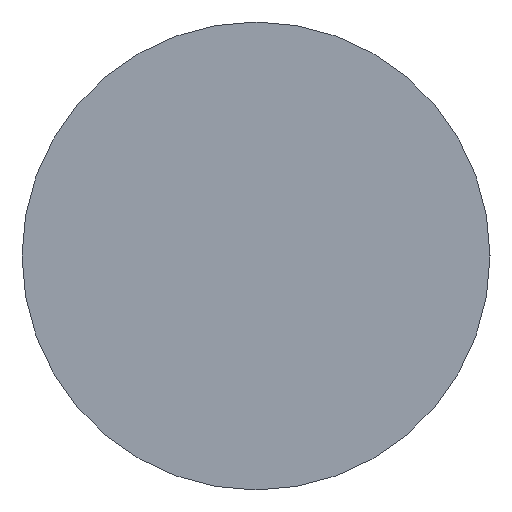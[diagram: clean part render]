
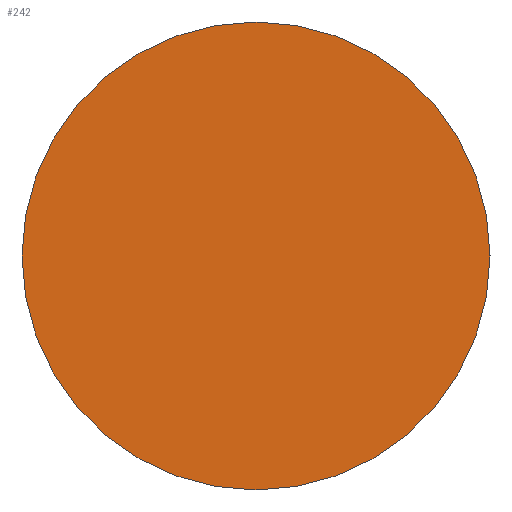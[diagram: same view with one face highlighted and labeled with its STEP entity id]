
A CAD part, left-side view. The second image highlights one B-rep face of the part: STEP entity #242.
In plain terms, the highlighted planar face has unit normal (-1, 0, 0).
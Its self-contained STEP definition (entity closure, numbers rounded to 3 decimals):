
#13 = CIRCLE ( 'NONE', #51, 6. ) ;
#28 = CARTESIAN_POINT ( 'NONE',  ( 0., 0., 0. ) ) ;
#32 = DIRECTION ( 'NONE',  ( -1., 0., 0. ) ) ;
#33 = CARTESIAN_POINT ( 'NONE',  ( 0., 0., 0. ) ) ;
#41 = DIRECTION ( 'NONE',  ( 1., 0., 0. ) ) ;
#44 = DIRECTION ( 'NONE',  ( 1., 0., 0. ) ) ;
#51 = AXIS2_PLACEMENT_3D ( 'NONE', #33, #41, #66 ) ;
#56 = DIRECTION ( 'NONE',  ( 0., -1., 0. ) ) ;
#63 = FACE_OUTER_BOUND ( 'NONE', #151, .T. ) ;
#66 = DIRECTION ( 'NONE',  ( 0., 1., 0. ) ) ;
#75 = ORIENTED_EDGE ( 'NONE', *, *, #134, .F. ) ;
#97 = AXIS2_PLACEMENT_3D ( 'NONE', #191, #44, #250 ) ;
#99 = CIRCLE ( 'NONE', #97, 6. ) ;
#134 = EDGE_CURVE ( 'NONE', #244, #200, #13, .T. ) ;
#151 = EDGE_LOOP ( 'NONE', ( #75, #213 ) ) ;
#191 = CARTESIAN_POINT ( 'NONE',  ( 0., 0., 0. ) ) ;
#196 = EDGE_CURVE ( 'NONE', #200, #244, #99, .T. ) ;
#200 = VERTEX_POINT ( 'NONE', #201 ) ;
#201 = CARTESIAN_POINT ( 'NONE',  ( 0., -6., 0. ) ) ;
#213 = ORIENTED_EDGE ( 'NONE', *, *, #196, .F. ) ;
#216 = AXIS2_PLACEMENT_3D ( 'NONE', #28, #32, #56 ) ;
#229 = PLANE ( 'NONE',  #216 ) ;
#242 = ADVANCED_FACE ( 'NONE', ( #63 ), #229, .T. ) ;
#244 = VERTEX_POINT ( 'NONE', #260 ) ;
#250 = DIRECTION ( 'NONE',  ( 0., 1., 0. ) ) ;
#260 = CARTESIAN_POINT ( 'NONE',  ( 0., 6., 0. ) ) ;
